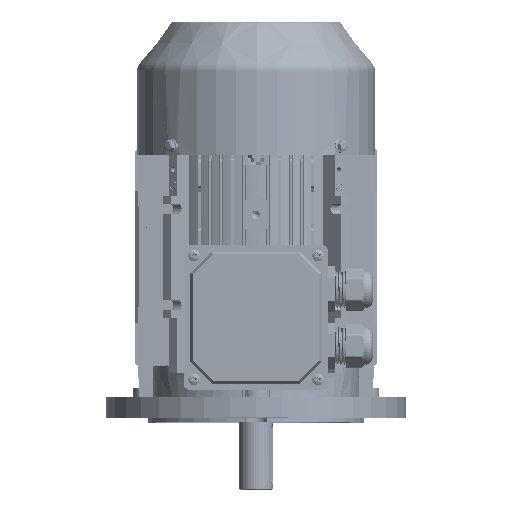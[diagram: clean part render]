
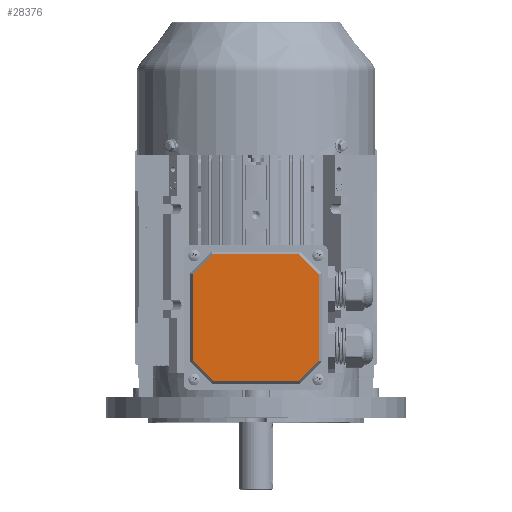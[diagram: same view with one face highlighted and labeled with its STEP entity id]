
A CAD part, top view. The second image highlights one B-rep face of the part: STEP entity #28376.
In plain terms, the highlighted planar face has unit normal (0, 0, 1) as drawn and (0, 0, -1) by its records, which use the part's own axes.
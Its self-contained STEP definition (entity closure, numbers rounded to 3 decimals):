
#1487 = EDGE_CURVE ( 'NONE', #36388, #80442, #97972, .T. ) ;
#2600 = LINE ( 'NONE', #49190, #30842 ) ;
#7865 = DIRECTION ( 'NONE',  ( 1., 0., 0. ) ) ;
#8154 = LINE ( 'NONE', #13203, #33048 ) ;
#12180 = DIRECTION ( 'NONE',  ( 0.707, 0.707, 0. ) ) ;
#13203 = CARTESIAN_POINT ( 'NONE',  ( -44.22, -44.22, -4. ) ) ;
#14464 = LINE ( 'NONE', #101104, #114111 ) ;
#18452 = VERTEX_POINT ( 'NONE', #70882 ) ;
#20619 = ORIENTED_EDGE ( 'NONE', *, *, #65007, .F. ) ;
#21001 = ORIENTED_EDGE ( 'NONE', *, *, #113506, .F. ) ;
#21491 = EDGE_CURVE ( 'NONE', #125425, #36388, #70180, .T. ) ;
#28164 = ORIENTED_EDGE ( 'NONE', *, *, #53917, .F. ) ;
#28254 = DIRECTION ( 'NONE',  ( -0.707, -0.707, 0. ) ) ;
#28376 = ADVANCED_FACE ( 'NONE', ( #45996 ), #60764, .F. ) ;
#29682 = CARTESIAN_POINT ( 'NONE',  ( 0., 52.536, -4. ) ) ;
#30842 = VECTOR ( 'NONE', #80708, 1000. ) ;
#32895 = DIRECTION ( 'NONE',  ( 0., 1., 0. ) ) ;
#33048 = VECTOR ( 'NONE', #33667, 1000. ) ;
#33667 = DIRECTION ( 'NONE',  ( 0.707, -0.707, 0. ) ) ;
#36388 = VERTEX_POINT ( 'NONE', #129960 ) ;
#37584 = DIRECTION ( 'NONE',  ( -0.707, 0.707, 0. ) ) ;
#38595 = VECTOR ( 'NONE', #7865, 1000. ) ;
#39601 = CARTESIAN_POINT ( 'NONE',  ( 52.536, -35.903, -4. ) ) ;
#41754 = LINE ( 'NONE', #65436, #81561 ) ;
#45996 = FACE_OUTER_BOUND ( 'NONE', #119516, .T. ) ;
#49190 = CARTESIAN_POINT ( 'NONE',  ( -52.536, 0., -4. ) ) ;
#53917 = EDGE_CURVE ( 'NONE', #80442, #122367, #41754, .T. ) ;
#54535 = CARTESIAN_POINT ( 'NONE',  ( 44.22, -44.22, -4. ) ) ;
#57332 = CARTESIAN_POINT ( 'NONE',  ( -52.536, 35.903, -4. ) ) ;
#59580 = CARTESIAN_POINT ( 'NONE',  ( 52.536, 35.903, -4. ) ) ;
#60363 = CARTESIAN_POINT ( 'NONE',  ( -44.22, 44.22, -4. ) ) ;
#60764 = PLANE ( 'NONE',  #111280 ) ;
#65007 = EDGE_CURVE ( 'NONE', #18452, #125690, #109018, .T. ) ;
#65436 = CARTESIAN_POINT ( 'NONE',  ( 52.536, 0., -4. ) ) ;
#69812 = VECTOR ( 'NONE', #12180, 1000. ) ;
#69872 = EDGE_CURVE ( 'NONE', #122367, #119891, #14464, .T. ) ;
#70180 = LINE ( 'NONE', #92755, #38595 ) ;
#70882 = CARTESIAN_POINT ( 'NONE',  ( -35.903, 52.536, -4. ) ) ;
#71407 = DIRECTION ( 'NONE',  ( 1., 0., 0. ) ) ;
#72226 = CARTESIAN_POINT ( 'NONE',  ( -35.903, -52.536, -4. ) ) ;
#72870 = ORIENTED_EDGE ( 'NONE', *, *, #96156, .F. ) ;
#74198 = ORIENTED_EDGE ( 'NONE', *, *, #1487, .F. ) ;
#78074 = CARTESIAN_POINT ( 'NONE',  ( -52.536, -35.903, -4. ) ) ;
#80442 = VERTEX_POINT ( 'NONE', #39601 ) ;
#80708 = DIRECTION ( 'NONE',  ( 0., -1., 0. ) ) ;
#81561 = VECTOR ( 'NONE', #32895, 1000. ) ;
#83388 = VECTOR ( 'NONE', #136379, 1000. ) ;
#92755 = CARTESIAN_POINT ( 'NONE',  ( 0., -52.536, -4. ) ) ;
#94894 = VERTEX_POINT ( 'NONE', #78074 ) ;
#96156 = EDGE_CURVE ( 'NONE', #94894, #125425, #8154, .T. ) ;
#97141 = ORIENTED_EDGE ( 'NONE', *, *, #128513, .F. ) ;
#97972 = LINE ( 'NONE', #54535, #69812 ) ;
#101104 = CARTESIAN_POINT ( 'NONE',  ( 44.22, 44.22, -4. ) ) ;
#101492 = ORIENTED_EDGE ( 'NONE', *, *, #69872, .F. ) ;
#105703 = VECTOR ( 'NONE', #28254, 1000. ) ;
#109018 = LINE ( 'NONE', #60363, #105703 ) ;
#111280 = AXIS2_PLACEMENT_3D ( 'NONE', #113586, #134920, #71407 ) ;
#111631 = LINE ( 'NONE', #29682, #83388 ) ;
#113506 = EDGE_CURVE ( 'NONE', #119891, #18452, #111631, .T. ) ;
#113586 = CARTESIAN_POINT ( 'NONE',  ( 0., 0., -4. ) ) ;
#114111 = VECTOR ( 'NONE', #37584, 1000. ) ;
#119516 = EDGE_LOOP ( 'NONE', ( #28164, #74198, #127376, #72870, #97141, #20619, #21001, #101492 ) ) ;
#119891 = VERTEX_POINT ( 'NONE', #130680 ) ;
#122367 = VERTEX_POINT ( 'NONE', #59580 ) ;
#125425 = VERTEX_POINT ( 'NONE', #72226 ) ;
#125690 = VERTEX_POINT ( 'NONE', #57332 ) ;
#127376 = ORIENTED_EDGE ( 'NONE', *, *, #21491, .F. ) ;
#128513 = EDGE_CURVE ( 'NONE', #125690, #94894, #2600, .T. ) ;
#129960 = CARTESIAN_POINT ( 'NONE',  ( 35.903, -52.536, -4. ) ) ;
#130680 = CARTESIAN_POINT ( 'NONE',  ( 35.903, 52.536, -4. ) ) ;
#134920 = DIRECTION ( 'NONE',  ( 0., 0., 1. ) ) ;
#136379 = DIRECTION ( 'NONE',  ( -1., 0., 0. ) ) ;
